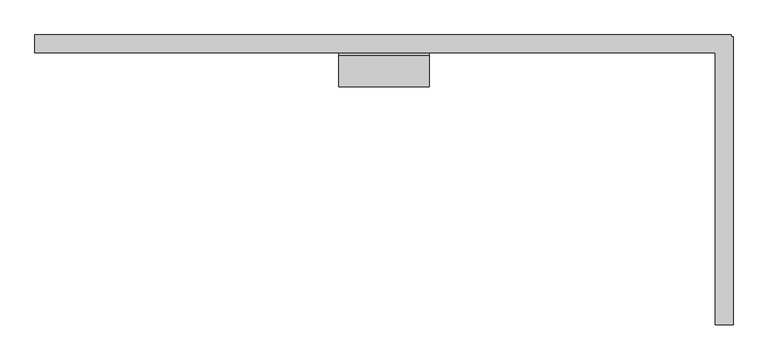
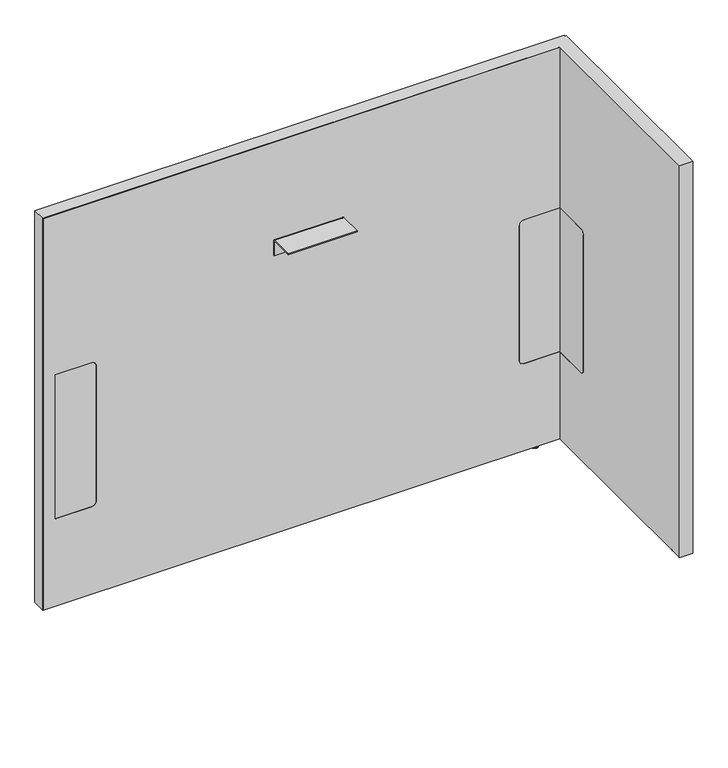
"""IFC4 building model written with IfcOpenShell, lengths in millimetres: furniture geometry, Steelcase - Answer Solution - Boundary Screen - L Return - Single Sided : 36H x 45W."""

from ifc_helpers import new_model, si_unit, point, frame, frame_2d, origin, place, context, project, spatial, polyline, circle_curve, ellipse_curve, trimmed, segment, composite_curve, outline, extrude, faceted_brep, source, transform, mapped, element, save
from ifc_brep_helpers import plane_surface, cylinder_surface, revolved_surface, advanced_brep


def furniture_dd684dd4(model_context):
    return source(origin(), model_context, "Body", "SolidModel", [
        extrude(outline(composite_curve([segment(polyline([(-109.3501471, 549.6162029), (-29.0550397, 549.6162029), (-29.0550397, 213.7762137), (-109.3501471, 213.7762137)]), True, "CONTINUOUS"), segment(trimmed(circle_curve(frame_2d((-109.3501471, 223.9362137)), 10.16), [point((-109.3501471, 213.7762137))], [point((-119.5101471, 223.9362137))], False, "CARTESIAN"), True, "CONTINUOUS"), segment(polyline([(-119.5101471, 223.9362137), (-119.5101471, 539.4562029)]), True, "CONTINUOUS"), segment(trimmed(circle_curve(frame_2d((-109.3501471, 539.4562029)), 10.16), [point((-119.5101471, 539.4562029))], [point((-109.3501471, 549.6162029))], False, "CARTESIAN"), True, "CONTINUOUS")], self_intersect=False)), frame((1372.8191891, 0.0, 0.0), z_axis=(1.0, 0.0, 0.0), x_axis=(0.0, 1.0, 0.0)), (0.0, 0.0, 1.0), 0.6401544),
        advanced_brep(
        [(1387.6672074, -448.0136072, 0.0), (1394.6216144, -448.0136072, 0.0), (1380.7128003, -448.0136072, 0.0), (1396.0762685, -448.0136072, 1.2700001), (1379.2581463, -448.0136072, 1.2700001), (1396.0762685, -448.0136072, 2.9673238), (1379.2581463, -448.0136072, 2.9673238), (1397.0427877, -448.0136072, 2.9673238), (1378.291627, -448.0136072, 2.9673238), (1397.0427877, -448.0136072, 9.9059849), (1378.291627, -448.0136072, 9.9059849), (1387.6672074, -448.0136072, 9.9059849)],
        [
            (0, 1),
            (1, 2, circle_curve(frame((1387.6672074, -448.0136072, 0.0), z_axis=(0.0, 0.0, -1.0), x_axis=(1.0, 0.0, 0.0)), 6.9544071)),
            (2, 0),
            (2, 1, circle_curve(frame((1387.6672074, -448.0136072, 0.0), z_axis=(0.0, 0.0, -1.0), x_axis=(1.0, 0.0, 0.0)), 6.9544071)),
            (1, 3, circle_curve(frame((1394.7945484, -448.0136072, 1.2700001), z_axis=(0.0, -1.0, 0.0), x_axis=(0.0, 0.0, 1.0)), 1.2817201)),
            (3, 4, circle_curve(frame((1387.6672074, -448.0136072, 1.2700001), z_axis=(0.0, 0.0, -1.0), x_axis=(1.0, 0.0, 0.0)), 8.4090611)),
            (4, 2, circle_curve(frame((1380.5398663, -448.0136072, 1.2700001), z_axis=(0.0, -1.0, 0.0), x_axis=(0.0, 0.0, 1.0)), 1.2817201)),
            (4, 3, circle_curve(frame((1387.6672074, -448.0136072, 1.2700001), z_axis=(0.0, 0.0, -1.0), x_axis=(1.0, 0.0, 0.0)), 8.4090611)),
            (3, 5),
            (5, 6, circle_curve(frame((1387.6672074, -448.0136072, 2.9673238), z_axis=(0.0, 0.0, -1.0), x_axis=(1.0, 0.0, 0.0)), 8.4090611)),
            (6, 4),
            (6, 5, circle_curve(frame((1387.6672074, -448.0136072, 2.9673238), z_axis=(0.0, 0.0, -1.0), x_axis=(1.0, 0.0, 0.0)), 8.4090611)),
            (5, 7),
            (7, 8, circle_curve(frame((1387.6672074, -448.0136072, 2.9673238), z_axis=(0.0, 0.0, -1.0), x_axis=(1.0, 0.0, 0.0)), 9.3755804)),
            (8, 6),
            (8, 7, circle_curve(frame((1387.6672074, -448.0136072, 2.9673238), z_axis=(0.0, 0.0, -1.0), x_axis=(1.0, 0.0, 0.0)), 9.3755804)),
            (7, 9),
            (9, 10, circle_curve(frame((1387.6672074, -448.0136072, 9.9059849), z_axis=(0.0, 0.0, -1.0), x_axis=(1.0, 0.0, 0.0)), 9.3755804)),
            (10, 8),
            (10, 9, circle_curve(frame((1387.6672074, -448.0136072, 9.9059849), z_axis=(0.0, 0.0, -1.0), x_axis=(1.0, 0.0, 0.0)), 9.3755804)),
            (9, 11),
            (11, 10),
        ],
        [
            plane_surface(frame((1387.6672074, -448.0136072, 0.0), z_axis=(0.0, 0.0, -1.0), x_axis=(1.0, 0.0, 0.0))),
            revolved_surface(trimmed(ellipse_curve(frame((1394.7945484, -448.0136072, 1.2700001), z_axis=(0.0, 1.0, 0.0), x_axis=(0.0, 0.0, 1.0)), 1.2817201, 1.2817201), [point((1396.0762685, -448.0136072, 1.2700001))], [point((1394.6216144, -448.0136072, 0.0))], True, "CARTESIAN"), (1387.6672074, -448.0136072, 9.9059849), (0.0, 0.0, -1.0)),
            cylinder_surface(frame((1387.6672074, -448.0136072, 9.9059849), z_axis=(0.0, 0.0, -1.0), x_axis=(1.0, 0.0, 0.0)), 8.4090611),
            plane_surface(frame((1387.6672074, -448.0136072, 2.9673238), z_axis=(0.0, 0.0, -1.0), x_axis=(1.0, 0.0, 0.0))),
            cylinder_surface(frame((1387.6672074, -448.0136072, 9.9059849), z_axis=(0.0, 0.0, -1.0), x_axis=(1.0, 0.0, 0.0)), 9.3755804),
            plane_surface(frame((1387.6672074, -448.0136072, 9.9059849), z_axis=(0.0, 0.0, 1.0), x_axis=(1.0, 0.0, 0.0))),
        ],
        [
            (0, [[1, 2, 3]]),
            (0, [[-3, 4, -1]]),
            (1, [[-2, 5, 6, 7]]),
            (1, [[-4, -7, 8, -5]]),
            (2, [[-6, 9, 10, 11]]),
            (2, [[-8, -11, 12, -9]]),
            (3, [[-10, 13, 14, 15]]),
            (3, [[-12, -15, 16, -13]]),
            (4, [[-14, 17, 18, 19]]),
            (4, [[-16, -19, 20, -17]]),
            (5, [[-18, 21, 22]]),
            (5, [[-20, -22, -21]]),
        ],
    ),
        faceted_brep([(1399.2531179, 0.0, 925.322), (1399.2531179, 0.0, 9.9059849), (1398.2621491, 0.0, 9.9059849), (1398.2621491, 0.0, 924.342118), (230.8097779, 0.0, 924.342118), (230.8097779, 0.0, 9.9059849), (229.8191891, 0.0, 9.9059849), (229.8191891, 0.0, 925.322), (229.8191891, -29.6898332, 925.322), (229.8191891, -29.6898332, 9.9059849), (230.8097779, -29.6898332, 9.9059849), (230.8097779, -29.6898332, 924.342118), (1372.8191891, -29.6898332, 924.342118), (1372.8191891, -29.6898332, 925.322), (1398.2621491, -29.6898332, 924.342118), (1398.2621491, -29.6898332, 9.9059849), (1399.2531179, -29.6898332, 9.9059849), (1399.2531179, -29.6898332, 924.342118), (1399.2531179, -3.2625916, 925.322), (1399.2531179, -3.2625916, 9.9059849), (1399.2531179, -4.252647, 9.9059849), (1399.2531179, -4.252647, 924.342118), (1402.5152256, -3.2625916, 9.9059849), (1402.5152256, -4.252647, 9.9059849), (1398.2621491, -4.252647, 9.9059849), (1372.8191891, -4.252647, 9.9059849), (1372.8191891, -3.2625916, 9.9059849), (1398.2621491, -3.2625916, 9.9059849), (1372.8191891, -486.8898332, 925.322), (1402.5152256, -486.8898332, 925.322), (1402.5152256, -3.2625916, 925.322), (1398.2621491, -3.2625916, 924.342118), (1398.2621491, -4.252647, 924.342118), (1372.8191891, -3.2625916, 924.342118), (1372.8191891, -4.252647, 924.342118), (1402.5152256, -4.252647, 924.342118), (1402.5152256, -485.899196, 924.342118), (1372.8191891, -485.899196, 924.342118), (1372.8191891, -485.899196, 9.9059849), (1372.8191891, -486.8898332, 9.9059849), (1402.5152256, -486.8898332, 9.9059849), (1402.5152256, -485.899196, 9.9059849)], [[[0, 1, 2, 3, 4, 5, 6, 7]], [[8, 9, 10, 11, 12, 13]], [[14, 15, 16, 17]], [[1, 0, 18, 19]], [[17, 16, 20, 21]], [[2, 1, 19, 22, 23, 20, 16, 15, 24, 25, 26, 27]], [[7, 6, 9, 8]], [[0, 7, 8, 13, 28, 29, 30, 18]], [[3, 2, 27, 31]], [[15, 14, 32, 24]], [[4, 3, 31, 33, 34, 32, 14, 17, 21, 35, 36, 37, 12, 11]], [[5, 4, 11, 10]], [[6, 5, 10, 9]], [[26, 25, 34, 33]], [[37, 38, 39, 28, 13, 12]], [[29, 40, 41, 36, 35, 23, 22, 30]], [[27, 26, 33, 31]], [[30, 22, 19, 18]], [[34, 25, 24, 32]], [[23, 35, 21, 20]], [[38, 37, 36, 41]], [[39, 38, 41, 40]], [[28, 39, 40, 29]]]),
        extrude(outline(composite_curve([segment(polyline([(-86.8398151, 696.4680019), (-86.8398151, 698.5), (-34.9450855, 698.5)]), True, "CONTINUOUS"), segment(trimmed(circle_curve(frame_2d((-34.9450855, 693.2447477)), 5.2552523), [point((-34.9450855, 698.5))], [point((-29.6898332, 693.2447477))], False, "CARTESIAN"), True, "CONTINUOUS"), segment(polyline([(-29.6898332, 693.2447477), (-29.6898332, 660.4), (-31.7218162, 660.4), (-31.7218162, 693.0058743)]), True, "CONTINUOUS"), segment(trimmed(circle_curve(frame_2d((-35.1839438, 693.0058743)), 3.4621276), [point((-31.7218162, 693.0058743))], [point((-35.1839438, 696.4680019))], True, "CARTESIAN"), True, "CONTINUOUS"), segment(polyline([(-35.1839438, 696.4680019), (-86.8398151, 696.4680019)]), True, "CONTINUOUS")], self_intersect=False)), frame((739.9685899, 0.0, 0.0), z_axis=(1.0, 0.0, 0.0), x_axis=(0.0, 1.0, 0.0)), (0.0, 0.0, 1.0), 152.4000969),
        advanced_brep(
        [(1325.3246853, -23.7588726, 9.9059849), (1325.3246853, -5.9309607, 9.9059849), (1325.3246853, -14.8449166, 9.9059849), (1325.3246853, -23.7588726, 2.9673238), (1325.3246853, -5.9309607, 2.9673238), (1325.3246853, -22.7915354, 2.9673238), (1325.3246853, -6.8982978, 2.9673238), (1325.3246853, -22.7915354, 1.6569081), (1325.3246853, -6.8982978, 1.6569081), (1325.3246853, -21.1346274, 0.0), (1325.3246853, -8.5552059, 0.0), (1325.3246853, -14.8449166, 0.0)],
        [
            (0, 1, circle_curve(frame((1325.3246853, -14.8449166, 9.9059849), z_axis=(0.0, 0.0, 1.0), x_axis=(0.0, 1.0, 0.0)), 8.913956)),
            (1, 2),
            (2, 0),
            (1, 0, circle_curve(frame((1325.3246853, -14.8449166, 9.9059849), z_axis=(0.0, 0.0, 1.0), x_axis=(0.0, 1.0, 0.0)), 8.913956)),
            (3, 4, circle_curve(frame((1325.3246853, -14.8449166, 2.9673238), z_axis=(0.0, 0.0, 1.0), x_axis=(0.0, 1.0, 0.0)), 8.913956)),
            (4, 1),
            (0, 3),
            (4, 3, circle_curve(frame((1325.3246853, -14.8449166, 2.9673238), z_axis=(0.0, 0.0, 1.0), x_axis=(0.0, 1.0, 0.0)), 8.913956)),
            (5, 6, circle_curve(frame((1325.3246853, -14.8449166, 2.9673238), z_axis=(0.0, 0.0, 1.0), x_axis=(0.0, 1.0, 0.0)), 7.9466188)),
            (6, 4),
            (3, 5),
            (6, 5, circle_curve(frame((1325.3246853, -14.8449166, 2.9673238), z_axis=(0.0, 0.0, 1.0), x_axis=(0.0, 1.0, 0.0)), 7.9466188)),
            (7, 8, circle_curve(frame((1325.3246853, -14.8449166, 1.6569081), z_axis=(0.0, 0.0, 1.0), x_axis=(0.0, 1.0, 0.0)), 7.9466188)),
            (8, 6),
            (5, 7),
            (8, 7, circle_curve(frame((1325.3246853, -14.8449166, 1.6569081), z_axis=(0.0, 0.0, 1.0), x_axis=(0.0, 1.0, 0.0)), 7.9466188)),
            (9, 10, circle_curve(frame((1325.3246853, -14.8449166, 0.0), z_axis=(0.0, 0.0, 1.0), x_axis=(0.0, 1.0, 0.0)), 6.2897107)),
            (10, 8, circle_curve(frame((1325.3246853, -8.5552059, 1.6569081), z_axis=(1.0, 0.0, 0.0), x_axis=(0.0, 1.0, 0.0)), 1.6569081)),
            (7, 9, circle_curve(frame((1325.3246853, -21.1346274, 1.6569081), z_axis=(1.0, 0.0, 0.0), x_axis=(0.0, -1.0, 0.0)), 1.6569081)),
            (10, 9, circle_curve(frame((1325.3246853, -14.8449166, 0.0), z_axis=(0.0, 0.0, 1.0), x_axis=(0.0, 1.0, 0.0)), 6.2897107)),
            (11, 10),
            (9, 11),
        ],
        [
            plane_surface(frame((1325.3246853, -14.8449166, 9.9059849), z_axis=(0.0, 0.0, 1.0), x_axis=(0.0, 1.0, 0.0))),
            cylinder_surface(frame((1325.3246853, -14.8449166, 9.9059849), z_axis=(0.0, 0.0, -1.0), x_axis=(0.0, 1.0, 0.0)), 8.913956),
            plane_surface(frame((1325.3246853, -14.8449166, 2.9673238), z_axis=(0.0, 0.0, -1.0), x_axis=(0.0, 1.0, 0.0))),
            cylinder_surface(frame((1325.3246853, -14.8449166, 9.9059849), z_axis=(0.0, 0.0, -1.0), x_axis=(0.0, 1.0, 0.0)), 7.9466188),
            revolved_surface(trimmed(ellipse_curve(frame((1325.3246853, -8.5552059, 1.6569081), z_axis=(-1.0, 0.0, 0.0), x_axis=(0.0, 1.0, 0.0)), 1.6569081, 1.6569081), [point((1325.3246853, -6.8982978, 1.6569081))], [point((1325.3246853, -8.5552059, 0.0))], True, "CARTESIAN"), (1325.3246853, -14.8449166, 9.9059849), (0.0, 0.0, -1.0)),
            plane_surface(frame((1325.3246853, -14.8449166, 0.0), z_axis=(0.0, 0.0, -1.0), x_axis=(0.0, 1.0, 0.0))),
        ],
        [
            (0, [[1, 2, 3]]),
            (0, [[4, -3, -2]]),
            (1, [[5, 6, -1, 7]]),
            (1, [[8, -7, -4, -6]]),
            (2, [[9, 10, -5, 11]]),
            (2, [[12, -11, -8, -10]]),
            (3, [[13, 14, -9, 15]]),
            (3, [[16, -15, -12, -14]]),
            (4, [[17, 18, -13, 19]]),
            (4, [[20, -19, -16, -18]]),
            (5, [[21, -17, 22]]),
            (5, [[-22, -20, -21]]),
        ],
    ),
        advanced_brep(
        [(230.8097779, 0.0, 924.342118), (1398.2621491, 0.0, 924.342118), (1398.2621491, 0.0, 9.9059849), (230.8097779, 0.0, 9.9059849), (347.9483813, -29.0550397, 539.4562029), (337.7883813, -29.0550397, 549.6162029), (258.1344836, -29.0550397, 549.6162029), (258.1344836, -29.0550397, 213.7762137), (337.7883813, -29.0550397, 213.7762137), (347.9483813, -29.0550397, 223.9362137), (1373.4593435, -29.0550397, 213.7762137), (1373.4593435, -29.0550397, 549.6162029), (1292.9109268, -29.0550397, 549.6162029), (1282.7509268, -29.0550397, 539.4562029), (1282.7509268, -29.0550397, 223.9362137), (1292.9109268, -29.0550397, 213.7762137), (230.8097779, -29.6898332, 924.342118), (230.8097779, -29.6898332, 9.9059849), (1372.8191891, -29.6898332, 9.9059849), (1372.8191891, -29.6898332, 213.7762137), (1292.9109268, -29.6898332, 213.7762137), (1282.7509268, -29.6898332, 223.9362137), (1282.7509268, -29.6898332, 539.4562029), (1292.9109268, -29.6898332, 549.6162029), (1372.8191891, -29.6898332, 549.6162029), (1372.8191891, -29.6898332, 924.342118), (337.7883813, -29.6898332, 549.6162029), (347.9483813, -29.6898332, 539.4562029), (347.9483813, -29.6898332, 223.9362137), (337.7883813, -29.6898332, 213.7762137), (258.1344836, -29.6898332, 213.7762137), (258.1344836, -29.6898332, 549.6162029), (1398.2621491, -4.252647, 9.9059849), (1402.5152256, -4.252647, 9.9059849), (1402.5152256, -485.899196, 9.9059849), (1372.8191891, -485.899196, 9.9059849), (1398.2621491, -4.252647, 924.342118), (1372.8191891, -485.899196, 924.342118), (1402.5152256, -485.899196, 924.342118), (1402.5152256, -4.252647, 924.342118), (1373.4593435, -109.3501471, 549.6162029), (1372.8191891, -109.3501471, 549.6162029), (1373.4593435, -109.3501471, 213.7762137), (1373.4593435, -119.5101471, 223.9362137), (1373.4593435, -119.5101471, 539.4562029), (1372.8191891, -109.3501471, 213.7762137), (1372.8191891, -119.5101471, 539.4562029), (1372.8191891, -119.5101471, 223.9362137)],
        [
            (0, 1),
            (1, 2),
            (2, 3),
            (3, 0),
            (4, 5, circle_curve(frame((337.7883813, -29.0550397, 539.4562029), z_axis=(0.0, -1.0, 0.0), x_axis=(0.0, 0.0, 1.0)), 10.16)),
            (5, 6),
            (6, 7),
            (7, 8),
            (8, 9, circle_curve(frame((337.7883813, -29.0550397, 223.9362137), z_axis=(0.0, -1.0, 0.0), x_axis=(0.0, 0.0, 1.0)), 10.16)),
            (9, 4),
            (10, 11),
            (11, 12),
            (12, 13, circle_curve(frame((1292.9109268, -29.0550397, 539.4562029), z_axis=(0.0, -1.0, 0.0), x_axis=(0.0, 0.0, 1.0)), 10.16)),
            (13, 14),
            (14, 15, circle_curve(frame((1292.9109268, -29.0550397, 223.9362137), z_axis=(0.0, -1.0, 0.0), x_axis=(0.0, 0.0, 1.0)), 10.16)),
            (15, 10),
            (16, 17),
            (17, 18),
            (18, 19),
            (19, 20),
            (20, 21, circle_curve(frame((1292.9109268, -29.6898332, 223.9362137), z_axis=(0.0, 1.0, 0.0), x_axis=(0.0, 0.0, 1.0)), 10.16)),
            (21, 22),
            (22, 23, circle_curve(frame((1292.9109268, -29.6898332, 539.4562029), z_axis=(0.0, 1.0, 0.0), x_axis=(0.0, 0.0, 1.0)), 10.16)),
            (23, 24),
            (24, 25),
            (25, 16),
            (26, 27, circle_curve(frame((337.7883813, -29.6898332, 539.4562029), z_axis=(0.0, 1.0, 0.0), x_axis=(0.0, 0.0, 1.0)), 10.16)),
            (27, 28),
            (28, 29, circle_curve(frame((337.7883813, -29.6898332, 223.9362137), z_axis=(0.0, 1.0, 0.0), x_axis=(0.0, 0.0, 1.0)), 10.16)),
            (29, 30),
            (30, 31),
            (31, 26),
            (16, 0),
            (3, 17),
            (2, 32),
            (32, 33),
            (33, 34),
            (34, 35),
            (35, 18),
            (1, 36),
            (36, 32),
            (25, 37),
            (37, 38),
            (38, 39),
            (39, 36),
            (26, 5),
            (4, 27),
            (9, 28),
            (8, 29),
            (7, 30),
            (6, 31),
            (11, 40),
            (40, 41),
            (41, 24),
            (23, 12),
            (42, 43, circle_curve(frame((1373.4593435, -109.3501471, 223.9362137), z_axis=(-1.0, 0.0, 0.0), x_axis=(0.0, 1.0, 0.0)), 10.16)),
            (43, 44),
            (44, 40, circle_curve(frame((1373.4593435, -109.3501471, 539.4562029), z_axis=(-1.0, 0.0, 0.0), x_axis=(0.0, 1.0, 0.0)), 10.16)),
            (10, 42),
            (15, 20),
            (19, 45),
            (45, 42),
            (14, 21),
            (13, 22),
            (35, 37),
            (41, 46, circle_curve(frame((1372.8191891, -109.3501471, 539.4562029), z_axis=(1.0, 0.0, 0.0), x_axis=(0.0, 1.0, 0.0)), 10.16)),
            (46, 47),
            (47, 45, circle_curve(frame((1372.8191891, -109.3501471, 223.9362137), z_axis=(1.0, 0.0, 0.0), x_axis=(0.0, 1.0, 0.0)), 10.16)),
            (38, 34),
            (33, 39),
            (44, 46),
            (43, 47),
        ],
        [
            plane_surface(frame((347.9483813, 0.0, 549.6162029), z_axis=(0.0, 1.0, 0.0), x_axis=(0.0, 0.0, -1.0))),
            plane_surface(frame((347.9483813, -29.0550397, 549.6162029), z_axis=(0.0, -1.0, 0.0), x_axis=(0.0, 0.0, 1.0))),
            plane_surface(frame((1398.2621491, -29.6898332, 924.342118), z_axis=(0.0, -1.0, 0.0), x_axis=(-1.0, 0.0, 0.0))),
            plane_surface(frame((230.8097779, 0.0, 9.9059849), z_axis=(-1.0, 0.0, 0.0), x_axis=(0.0, -1.0, 0.0))),
            plane_surface(frame((1398.2621491, 0.0, 9.9059849), z_axis=(0.0, 0.0, -1.0), x_axis=(0.0, -1.0, 0.0))),
            plane_surface(frame((1398.2621491, 0.0, 924.342118), z_axis=(1.0, 0.0, 0.0), x_axis=(0.0, -1.0, 0.0))),
            plane_surface(frame((230.8097779, 0.0, 924.342118), z_axis=(0.0, 0.0, 1.0), x_axis=(0.0, -1.0, 0.0))),
            revolved_surface(polyline([(337.7883813, -29.6898332, 549.6162029), (337.7883813, -29.0550397, 549.6162029)]), (337.7883813, -29.6898332, 539.4562029), (0.0, -1.0, 0.0)),
            plane_surface(frame((347.9483813, 0.0, 223.9362137), z_axis=(-1.0, 0.0, 0.0), x_axis=(0.0, -1.0, 0.0))),
            revolved_surface(polyline([(337.7883813, -29.6898332, 234.0962137), (337.7883813, -29.0550397, 234.0962137)]), (337.7883813, -29.6898332, 223.9362137), (0.0, -1.0, 0.0)),
            plane_surface(frame((258.1344836, 0.0, 213.7762137), z_axis=(0.0, 0.0, 1.0), x_axis=(0.0, -1.0, 0.0))),
            plane_surface(frame((258.1344836, 0.0, 549.6162029), z_axis=(1.0, 0.0, 0.0), x_axis=(0.0, -1.0, 0.0))),
            plane_surface(frame((337.7883813, 0.0, 549.6162029), z_axis=(0.0, 0.0, -1.0), x_axis=(0.0, -1.0, 0.0))),
            plane_surface(frame((1373.4593435, 0.0, 549.6162029), z_axis=(0.0, 0.0, -1.0), x_axis=(0.0, -1.0, 0.0))),
            plane_surface(frame((1373.4593435, 0.0, 213.7762137), z_axis=(-1.0, 0.0, 0.0), x_axis=(0.0, -1.0, 0.0))),
            plane_surface(frame((1292.9109268, 0.0, 213.7762137), z_axis=(0.0, 0.0, 1.0), x_axis=(0.0, -1.0, 0.0))),
            revolved_surface(polyline([(1292.9109268, -29.6898332, 234.0962137), (1292.9109268, -29.0550397, 234.0962137)]), (1292.9109268, -29.6898332, 223.9362137), (0.0, -1.0, 0.0)),
            plane_surface(frame((1282.7509268, 0.0, 539.4562029), z_axis=(1.0, 0.0, 0.0), x_axis=(0.0, -1.0, 0.0))),
            revolved_surface(polyline([(1292.9109268, -29.6898332, 549.6162029), (1292.9109268, -29.0550397, 549.6162029)]), (1292.9109268, -29.6898332, 539.4562029), (0.0, -1.0, 0.0)),
            plane_surface(frame((1372.8191891, -485.899196, 924.342118), z_axis=(-1.0, 0.0, 0.0), x_axis=(0.0, 0.0, 1.0))),
            plane_surface(frame((1402.5152256, -485.899196, 924.342118), z_axis=(1.0, 0.0, 0.0), x_axis=(0.0, 0.0, -1.0))),
            plane_surface(frame((1402.5152256, -4.252647, 9.9059849), z_axis=(0.0, 1.0, 0.0), x_axis=(-1.0, 0.0, 0.0))),
            plane_surface(frame((1402.5152256, -485.899196, 924.342118), z_axis=(0.0, -1.0, 0.0), x_axis=(-1.0, 0.0, 0.0))),
            revolved_surface(polyline([(1372.8191891, -99.1901471, 539.4562029), (1373.4593435, -99.1901471, 539.4562029)]), (-340.6902705, -109.3501471, 539.4562029), (-1.0, 0.0, 0.0)),
            plane_surface(frame((1402.5152256, -119.5101471, 223.9362137), z_axis=(0.0, 1.0, 0.0), x_axis=(-1.0, 0.0, 0.0))),
            revolved_surface(polyline([(1372.8191891, -99.1901471, 223.9362137), (1373.4593435, -99.1901471, 223.9362137)]), (-340.6902705, -109.3501471, 223.9362137), (-1.0, 0.0, 0.0)),
        ],
        [
            (0, [[1, 2, 3, 4]]),
            (1, [[5, 6, 7, 8, 9, 10]]),
            (1, [[11, 12, 13, 14, 15, 16]]),
            (2, [[17, 18, 19, 20, 21, 22, 23, 24, 25, 26], [27, 28, 29, 30, 31, 32]]),
            (3, [[-17, 33, -4, 34]]),
            (4, [[-3, 35, 36, 37, 38, 39, -18, -34]]),
            (5, [[-2, 40, 41, -35]]),
            (6, [[-1, -33, -26, 42, 43, 44, 45, -40]]),
            (7, [[-27, 46, -5, 47]]),
            (8, [[-28, -47, -10, 48]]),
            (9, [[-29, -48, -9, 49]]),
            (10, [[-30, -49, -8, 50]]),
            (11, [[-31, -50, -7, 51]]),
            (12, [[-32, -51, -6, -46]]),
            (13, [[52, 53, 54, -24, 55, -12]]),
            (14, [[56, 57, 58, -52, -11, 59]]),
            (15, [[-59, -16, 60, -20, 61, 62]]),
            (16, [[-21, -60, -15, 63]]),
            (17, [[-22, -63, -14, 64]]),
            (18, [[-23, -64, -13, -55]]),
            (19, [[65, -42, -25, -54, 66, 67, 68, -61, -19, -39]]),
            (20, [[69, -37, 70, -44]]),
            (21, [[-70, -36, -41, -45]]),
            (22, [[-65, -38, -69, -43]]),
            (23, [[-66, -53, -58, 71]]),
            (24, [[-67, -71, -57, 72]]),
            (25, [[-68, -72, -56, -62]]),
        ],
    ),
        extrude(outline(composite_curve([segment(polyline([(549.6162029, 337.7883813), (549.6162029, 258.1344836), (213.7762137, 258.1344836), (213.7762137, 337.7883813)]), True, "CONTINUOUS"), segment(trimmed(circle_curve(frame_2d((223.9362137, 337.7883813)), 10.16), [point((213.7762137, 337.7883813))], [point((223.9362137, 347.9483813))], False, "CARTESIAN"), True, "CONTINUOUS"), segment(polyline([(223.9362137, 347.9483813), (539.4562029, 347.9483813)]), True, "CONTINUOUS"), segment(trimmed(circle_curve(frame_2d((539.4562029, 337.7883813)), 10.16), [point((539.4562029, 347.9483813))], [point((549.6162029, 337.7883813))], False, "CARTESIAN"), True, "CONTINUOUS")], self_intersect=False)), frame((0.0, -29.6898332, 0.0), z_axis=(0.0, 1.0, 0.0), x_axis=(0.0, 0.0, 1.0)), (0.0, 0.0, 1.0), 0.6347935),
        extrude(outline(composite_curve([segment(trimmed(circle_curve(frame_2d((539.4562029, 1292.9109268)), 10.16), [point((549.6162029, 1292.9109268))], [point((539.4562029, 1282.7509268))], False, "CARTESIAN"), True, "CONTINUOUS"), segment(polyline([(539.4562029, 1282.7509268), (223.9362137, 1282.7509268)]), True, "CONTINUOUS"), segment(trimmed(circle_curve(frame_2d((223.9362137, 1292.9109268)), 10.16), [point((223.9362137, 1282.7509268))], [point((213.7762137, 1292.9109268))], False, "CARTESIAN"), True, "CONTINUOUS"), segment(polyline([(213.7762137, 1292.9109268), (213.7762137, 1372.8191891), (549.6162029, 1372.8191891), (549.6162029, 1292.9109268)]), True, "CONTINUOUS")], self_intersect=False)), frame((0.0, -29.6898332, 0.0), z_axis=(0.0, 1.0, 0.0), x_axis=(0.0, 0.0, 1.0)), (0.0, 0.0, 1.0), 0.6347935),
    ])


if __name__ == "__main__":
    model = new_model("IFC4")
    model_context = context("Model", 3, world=origin())
    ifc_project = project(units=[si_unit("LENGTHUNIT", "METRE", prefix="MILLI")], contexts=[model_context])
    site = spatial("IfcSite", under=ifc_project)
    building = spatial("IfcBuilding", under=site)
    placement = place(None, origin())
    furniture_shape = furniture_dd684dd4(model_context)
    element("IfcFurniture", 1, ObjectType="Steelcase - Answer Solution - Boundary Screen - L Return - Single Sided : 36H x 45W", at=placement, inside=building, context=model_context, shape_type="MappedRepresentation", body=[
        mapped(furniture_shape, transform((0.0, 0.0, 0.0), x_axis=(1.0, 0.0, 0.0), y_axis=(0.0, 1.0, 0.0), z_axis=(0.0, 0.0, 1.0))),
    ])
    save(model, "model.ifc")
